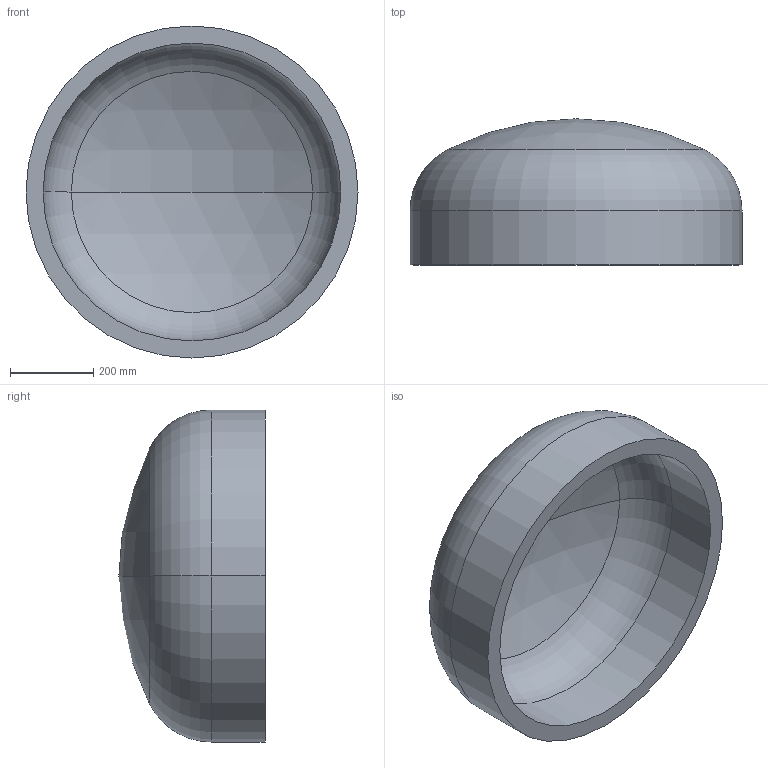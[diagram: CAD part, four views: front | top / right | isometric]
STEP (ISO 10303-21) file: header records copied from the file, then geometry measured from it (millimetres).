
FILE_DESCRIPTION (( 'STEP AP203' ), '1' );
FILE_NAME ('DIN 28013 Korbbogenform_-_Boden DIN 28013 - 800 x 130 - I - s=41.step', '2016-07-01T08:16:56', ( '' ), ( '' ), 'SwSTEP 2.0', 'SolidWorks 2013', '' );
FILE_SCHEMA (( 'CONFIG_CONTROL_DESIGN' ));
Length unit declared in the file: millimetre
Products named in the file (1): DIN 28013 Korbbogenform_-_Boden DIN 28013 - 800 x 130 - I - s=41
Bounding box: 800 x 352.23 x 800 mm (x, y, z)
Volume: 39514798.5 mm3; surface area: 2028834.7 mm2
Topology: 1 solids, 1 shells, 13 faces, 24 edges, 14 vertices
Faces by surface type: torus 4, cylinder 4, sphere 4, plane 1
Entity records: 407 total; most frequent: DIRECTION 72, CARTESIAN_POINT 52, ORIENTED_EDGE 48, AXIS2_PLACEMENT_3D 34, EDGE_CURVE 24, CIRCLE 20, VERTEX_POINT 14, EDGE_LOOP 14
